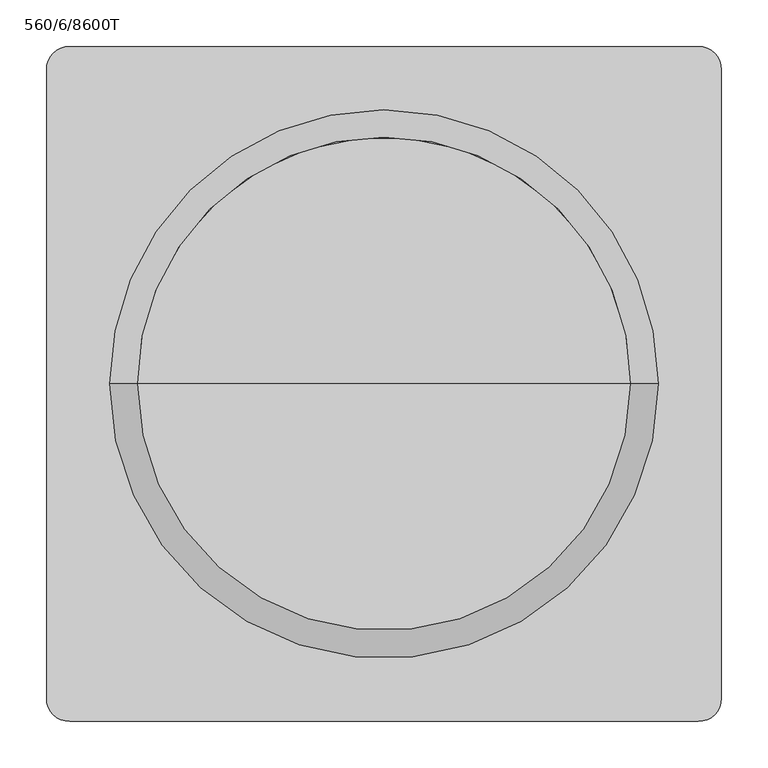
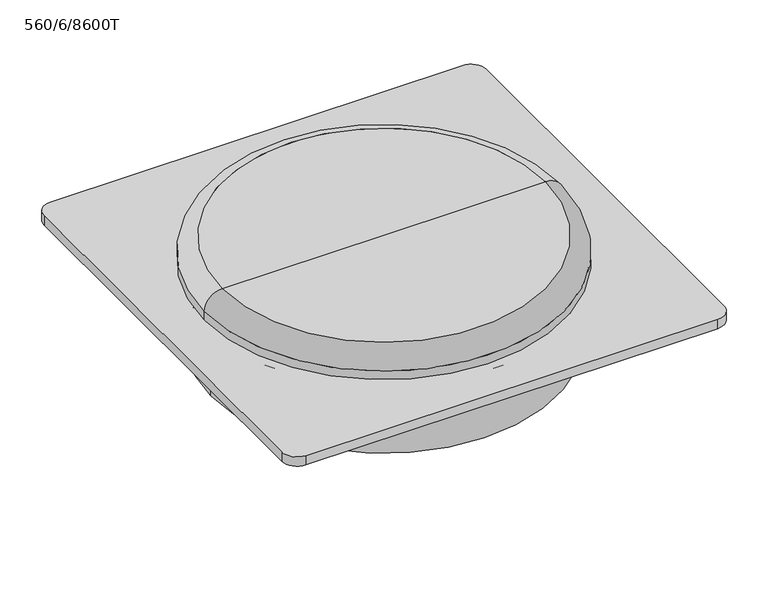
"""IFC4 building model written with IfcOpenShell, lengths in millimetres: unitary equipment geometry, VE-Wentylator-ParaForma-Harmann-WAF-Wywiewny : 560/6/8600T."""

from ifc_helpers import new_model, si_unit, point, frame, frame_2d, origin, origin_with_axes, origin_2d, place, context, project, spatial, polyline, circle_curve, ellipse_curve, trimmed, segment, composite_curve, outline, extrude, source, transform, mapped, element, save
from ifc_brep_helpers import plane_surface, cylinder_surface, revolved_surface, advanced_brep


def unitary_equipment_560_6_8600t_817bf8c2(model_context):
    return source(origin(), model_context, "Body", "SolidModel", [
        advanced_brep(
        [(294.5, 0.0, 16.0), (-294.5, 0.0, 16.0), (0.0, 0.0, 16.0), (294.5, 0.0, 30.6666667), (-294.5, 0.0, 30.6666667), (265.1666667, 0.0, 60.0), (-265.1666667, 0.0, 60.0), (0.0, 0.0, 60.0)],
        [
            (0, 1, circle_curve(frame((0.0, 0.0, 16.0), z_axis=(0.0, 0.0, -1.0), x_axis=(-1.0000000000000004, 0.0, 0.0)), 294.5)),
            (1, 2),
            (2, 0),
            (1, 0, circle_curve(frame((0.0, 0.0, 16.0), z_axis=(0.0, 0.0, -1.0), x_axis=(-1.0000000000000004, 0.0, 0.0)), 294.5)),
            (3, 4, circle_curve(frame((0.0, 0.0, 30.6666667), z_axis=(0.0, 0.0, -1.0), x_axis=(-1.0000000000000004, 0.0, 0.0)), 294.5)),
            (4, 1),
            (0, 3),
            (4, 3, circle_curve(frame((0.0, 0.0, 30.6666667), z_axis=(0.0, 0.0, -1.0), x_axis=(-1.0000000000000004, 0.0, 0.0)), 294.5)),
            (5, 6, circle_curve(frame((0.0, 0.0, 60.0), z_axis=(0.0, 0.0, -1.0), x_axis=(-1.0000000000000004, 0.0, 0.0)), 265.1666667)),
            (6, 4, circle_curve(frame((-265.1666667, 0.0, 30.6666667), z_axis=(0.0, -1.0000000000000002, 0.0), x_axis=(0.0, 0.0, -1.0000000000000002)), 29.3333333)),
            (3, 5, circle_curve(frame((265.1666667, 0.0, 30.6666667), z_axis=(0.0, -1.0000000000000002, 0.0), x_axis=(0.0, 0.0, -1.0000000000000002)), 29.3333333)),
            (6, 5, circle_curve(frame((0.0, 0.0, 60.0), z_axis=(0.0, 0.0, -1.0), x_axis=(-1.0000000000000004, 0.0, 0.0)), 265.1666667)),
            (7, 6),
            (5, 7),
        ],
        [
            plane_surface(frame((0.0, 0.0, 16.0), z_axis=(0.0, 0.0, -1.0), x_axis=(-1.0, 0.0, 0.0))),
            cylinder_surface(frame((0.0, 0.0, 60.0), z_axis=(0.0, 0.0, 1.0000000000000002), x_axis=(-1.0000000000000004, 0.0, 0.0)), 294.5),
            revolved_surface(trimmed(ellipse_curve(frame((-265.1666667, 0.0, 30.6666667), z_axis=(0.0, 1.0000000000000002, 0.0), x_axis=(0.0, 0.0, -1.0000000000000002)), 29.3333333, 29.3333333), [point((-294.5, 0.0, 30.6666667))], [point((-265.1666667, 0.0, 60.0))], True, "CARTESIAN"), (0.0, 0.0, 60.0), (0.0, 0.0, 1.0000000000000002)),
            plane_surface(frame((0.0, 0.0, 60.0), z_axis=(0.0, 0.0, 1.0), x_axis=(-1.0, 0.0, 0.0))),
        ],
        [
            (0, [[1, 2, 3]]),
            (0, [[4, -3, -2]]),
            (1, [[5, 6, -1, 7]]),
            (1, [[8, -7, -4, -6]]),
            (2, [[9, 10, -5, 11]]),
            (2, [[12, -11, -8, -10]]),
            (3, [[13, -9, 14]]),
            (3, [[-14, -12, -13]]),
        ],
    ),
        extrude(outline(composite_curve([segment(trimmed(circle_curve(origin_2d(), 88.35), [point((88.35, 0.0))], [point((-88.35, 0.0))], False, "CARTESIAN"), True, "CONTINUOUS"), segment(trimmed(circle_curve(origin_2d(), 88.35), [point((-88.35, 0.0))], [point((88.35, 0.0))], False, "CARTESIAN"), True, "CONTINUOUS")], self_intersect=False)), frame((0.0, 0.0, -145.0), z_axis=(0.0, 0.0, 1.0), x_axis=(1.0, 0.0, 0.0)), (0.0, 0.0, 1.0), 26.0),
        advanced_brep(
        [(0.0, 0.0, 0.0), (-294.5, 0.0, 0.0), (294.5, 0.0, 0.0), (284.0, 0.0, -119.0), (-284.0, 0.0, -119.0), (0.0, 0.0, -119.0), (284.0, 0.0, -10.5), (-284.0, 0.0, -10.5)],
        [
            (0, 1),
            (1, 2, circle_curve(frame((0.0, 0.0, 0.0), z_axis=(0.0, 0.0, 1.0), x_axis=(-1.0000000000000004, 0.0, 0.0)), 294.5)),
            (2, 0),
            (2, 1, circle_curve(frame((0.0, 0.0, 0.0), z_axis=(0.0, 0.0, 1.0), x_axis=(-1.0000000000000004, 0.0, 0.0)), 294.5)),
            (3, 4, circle_curve(frame((0.0, 0.0, -119.0), z_axis=(0.0, 0.0, -1.0), x_axis=(-1.0000000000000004, 0.0, 0.0)), 284.0)),
            (4, 5),
            (5, 3),
            (4, 3, circle_curve(frame((0.0, 0.0, -119.0), z_axis=(0.0, 0.0, -1.0), x_axis=(-1.0000000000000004, 0.0, 0.0)), 284.0)),
            (6, 7, circle_curve(frame((0.0, 0.0, -10.5), z_axis=(0.0, 0.0, -1.0), x_axis=(-1.0000000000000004, 0.0, 0.0)), 284.0)),
            (7, 4),
            (3, 6),
            (7, 6, circle_curve(frame((0.0, 0.0, -10.5), z_axis=(0.0, 0.0, -1.0), x_axis=(-1.0000000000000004, 0.0, 0.0)), 284.0)),
            (1, 7, circle_curve(frame((-294.5, 0.0, -10.5), z_axis=(0.0, 1.0000000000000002, 0.0), x_axis=(0.0, 0.0, -1.0000000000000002)), 10.5)),
            (6, 2, circle_curve(frame((294.5, 0.0, -10.5), z_axis=(0.0, 1.0000000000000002, 0.0), x_axis=(0.0, 0.0, -1.0000000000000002)), 10.5)),
        ],
        [
            plane_surface(frame((0.0, 0.0, 0.0), z_axis=(0.0, 0.0, 1.0), x_axis=(-1.0, 0.0, 0.0))),
            plane_surface(frame((0.0, 0.0, -119.0), z_axis=(0.0, 0.0, -1.0), x_axis=(-1.0, 0.0, 0.0))),
            cylinder_surface(frame((0.0, 0.0, 0.0), z_axis=(0.0, 0.0, 1.0000000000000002), x_axis=(-1.0000000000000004, 0.0, 0.0)), 284.0),
            revolved_surface(trimmed(ellipse_curve(frame((-294.5, 0.0, -10.5), z_axis=(0.0, -1.0000000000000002, 0.0), x_axis=(0.0, 0.0, -1.0000000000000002)), 10.5, 10.5), [point((-284.0, 0.0, -10.5))], [point((-294.5, 0.0, 0.0))], True, "CARTESIAN"), (0.0, 0.0, 0.0), (0.0, 0.0, 1.0000000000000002)),
        ],
        [
            (0, [[1, 2, 3]]),
            (0, [[-3, 4, -1]]),
            (1, [[5, 6, 7]]),
            (1, [[8, -7, -6]]),
            (2, [[9, 10, -5, 11]]),
            (2, [[12, -11, -8, -10]]),
            (3, [[-2, 13, -9, 14]]),
            (3, [[-4, -14, -12, -13]]),
        ],
    ),
        extrude(outline(composite_curve([segment(polyline([(337.5, -362.5), (-337.5, -362.5)]), True, "CONTINUOUS"), segment(trimmed(circle_curve(frame_2d((-337.5, -337.5)), 25.0), [point((-337.5, -362.5))], [point((-362.5, -337.5))], False, "CARTESIAN"), True, "CONTINUOUS"), segment(polyline([(-362.5, -337.5), (-362.5, 337.5)]), True, "CONTINUOUS"), segment(trimmed(circle_curve(frame_2d((-337.5, 337.5)), 25.0), [point((-362.5, 337.5))], [point((-337.5, 362.5))], False, "CARTESIAN"), True, "CONTINUOUS"), segment(polyline([(-337.5, 362.5), (337.5, 362.5)]), True, "CONTINUOUS"), segment(trimmed(circle_curve(frame_2d((337.5, 337.5)), 25.0), [point((337.5, 362.5))], [point((362.5, 337.5))], False, "CARTESIAN"), True, "CONTINUOUS"), segment(polyline([(362.5, 337.5), (362.5, -337.5)]), True, "CONTINUOUS"), segment(trimmed(circle_curve(frame_2d((337.5, -337.5)), 25.0), [point((362.5, -337.5))], [point((337.5, -362.5))], False, "CARTESIAN"), True, "CONTINUOUS")], self_intersect=False)), origin_with_axes(), (0.0, 0.0, 1.0), 16.0),
    ])


if __name__ == "__main__":
    model = new_model("IFC4")
    model_context = context("Model", 3, world=origin())
    ifc_project = project(units=[si_unit("LENGTHUNIT", "METRE", prefix="MILLI")], contexts=[model_context])
    site = spatial("IfcSite", under=ifc_project)
    building = spatial("IfcBuilding", under=site)
    placement = place(None, origin())
    unitary_equipment_560_6_8600t_shape = unitary_equipment_560_6_8600t_817bf8c2(model_context)
    element("IfcUnitaryEquipment", 1, ObjectType="VE-Wentylator-ParaForma-Harmann-WAF-Wywiewny : 560/6/8600T", at=placement, inside=building, context=model_context, shape_type="MappedRepresentation", body=[
        mapped(unitary_equipment_560_6_8600t_shape, transform((0.0, 0.0, 0.0), x_axis=(1.0, 0.0, 0.0), y_axis=(0.0, 1.0, 0.0), z_axis=(0.0, 0.0, 1.0))),
    ])
    save(model, "model.ifc")
